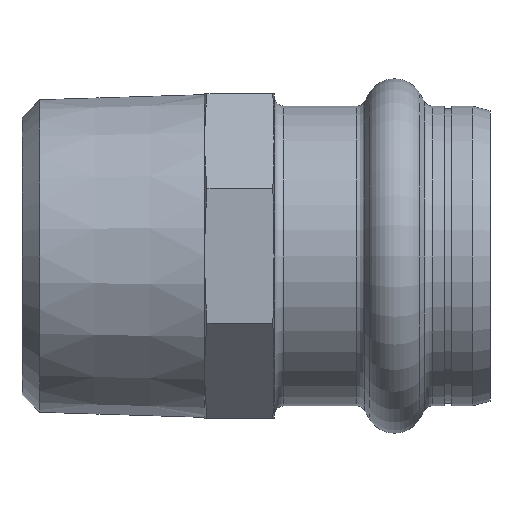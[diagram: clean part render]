
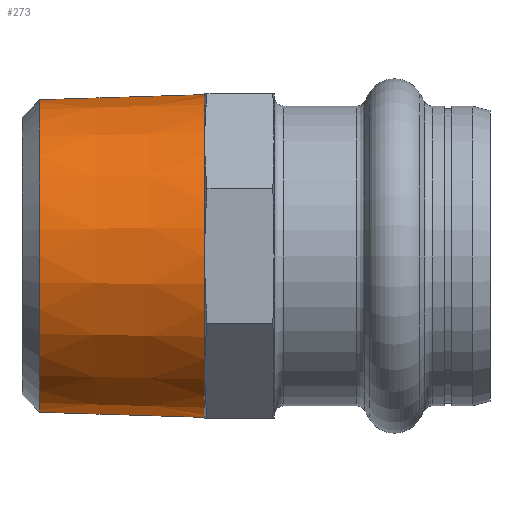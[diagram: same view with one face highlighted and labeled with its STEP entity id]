
A CAD part, left-side view. The second image highlights one B-rep face of the part: STEP entity #273.
In plain terms, the highlighted conical face has half-angle 1.78 degrees and reference radius 16.895 mm.
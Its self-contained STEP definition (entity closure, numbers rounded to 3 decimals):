
#2 = DIRECTION ( 'NONE',  ( 0., -1., 0.031 ) ) ;
#62 = EDGE_LOOP ( 'NONE', ( #969, #580, #819, #726 ) ) ;
#68 = EDGE_CURVE ( 'NONE', #1210, #444, #1713, .T. ) ;
#125 = CARTESIAN_POINT ( 'NONE',  ( 0., 47.141, 0. ) ) ;
#137 = DIRECTION ( 'NONE',  ( 0., -1., 0. ) ) ;
#165 = DIRECTION ( 'NONE',  ( 0., 0., -1. ) ) ;
#257 = LINE ( 'NONE', #1117, #1616 ) ;
#273 = ADVANCED_FACE ( 'NONE', ( #1209 ), #706, .T. ) ;
#381 = EDGE_CURVE ( 'NONE', #1210, #794, #642, .T. ) ;
#444 = VERTEX_POINT ( 'NONE', #776 ) ;
#449 = CARTESIAN_POINT ( 'NONE',  ( 0., 29.9, 0. ) ) ;
#580 = ORIENTED_EDGE ( 'NONE', *, *, #381, .T. ) ;
#595 = AXIS2_PLACEMENT_3D ( 'NONE', #125, #137, #165 ) ;
#642 = CIRCLE ( 'NONE', #595, 16.359 ) ;
#706 = CONICAL_SURFACE ( 'NONE', #1486, 16.895, 0.031 ) ;
#714 = DIRECTION ( 'NONE',  ( 0., 0., -1. ) ) ;
#726 = ORIENTED_EDGE ( 'NONE', *, *, #1113, .F. ) ;
#776 = CARTESIAN_POINT ( 'NONE',  ( 0., 29.9, 16.895 ) ) ;
#794 = VERTEX_POINT ( 'NONE', #1283 ) ;
#811 = VERTEX_POINT ( 'NONE', #1105 ) ;
#819 = ORIENTED_EDGE ( 'NONE', *, *, #1615, .T. ) ;
#900 = CIRCLE ( 'NONE', #1221, 16.895 ) ;
#904 = VECTOR ( 'NONE', #2, 1000. ) ;
#938 = CARTESIAN_POINT ( 'NONE',  ( 0., 47.141, 16.359 ) ) ;
#969 = ORIENTED_EDGE ( 'NONE', *, *, #68, .F. ) ;
#1105 = CARTESIAN_POINT ( 'NONE',  ( 0., 29.9, -16.895 ) ) ;
#1113 = EDGE_CURVE ( 'NONE', #444, #811, #900, .T. ) ;
#1117 = CARTESIAN_POINT ( 'NONE',  ( 0., 29.9, -16.895 ) ) ;
#1185 = DIRECTION ( 'NONE',  ( 0., 0., -1. ) ) ;
#1209 = FACE_OUTER_BOUND ( 'NONE', #62, .T. ) ;
#1210 = VERTEX_POINT ( 'NONE', #938 ) ;
#1221 = AXIS2_PLACEMENT_3D ( 'NONE', #1222, #1403, #1185 ) ;
#1222 = CARTESIAN_POINT ( 'NONE',  ( 0., 29.9, 0. ) ) ;
#1283 = CARTESIAN_POINT ( 'NONE',  ( 0., 47.141, -16.359 ) ) ;
#1296 = CARTESIAN_POINT ( 'NONE',  ( 0., 29.9, 16.895 ) ) ;
#1302 = DIRECTION ( 'NONE',  ( 0., -1., -0.031 ) ) ;
#1379 = DIRECTION ( 'NONE',  ( 0., -1., 0. ) ) ;
#1403 = DIRECTION ( 'NONE',  ( 0., -1., 0. ) ) ;
#1486 = AXIS2_PLACEMENT_3D ( 'NONE', #449, #1379, #714 ) ;
#1615 = EDGE_CURVE ( 'NONE', #794, #811, #257, .T. ) ;
#1616 = VECTOR ( 'NONE', #1302, 1000. ) ;
#1713 = LINE ( 'NONE', #1296, #904 ) ;
